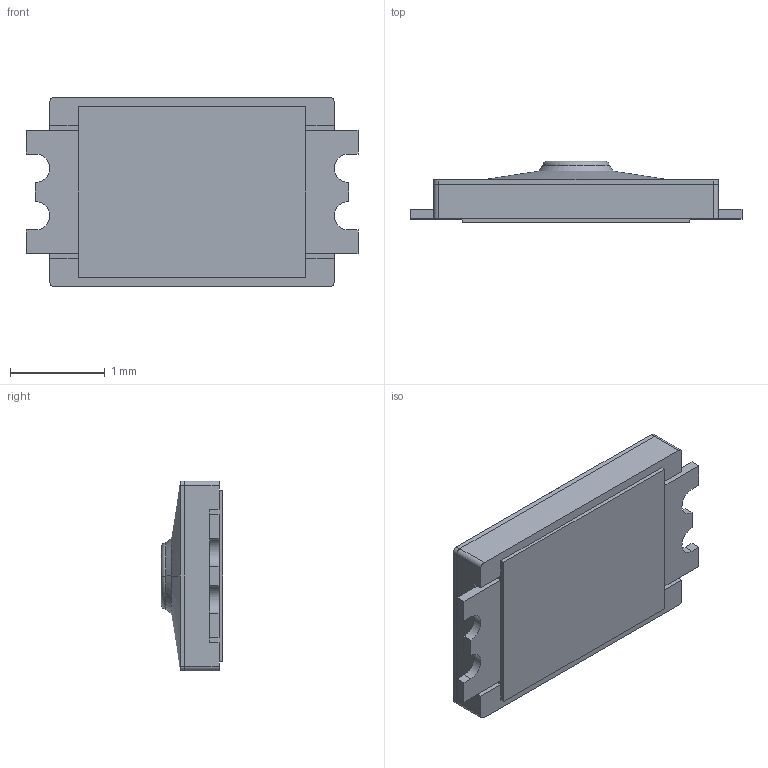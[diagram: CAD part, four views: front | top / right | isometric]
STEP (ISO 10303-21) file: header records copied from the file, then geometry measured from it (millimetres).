
FILE_DESCRIPTION((''),'2;1');
FILE_NAME('JQA2030F-B0061-01FG-1-106_ASM','2026-04-11T11:02:29',('Admin'),(''),'CREO PARAMETRIC BY PTC INC, 2019224','CREO PARAMETRIC BY PTC INC, 2019224','');
FILE_SCHEMA(('AUTOMOTIVE_DESIGN { 1 0 10303 214 1 1 1 1 }'));
Length unit declared in the file: millimetre
Products named in the file (3): JQA2030F-B0061-01FG-1-106_01; JQA2030F-B0061-01FG-1-106_02; JQA2030F-B0061-01FG-1-106_ASM
Assembly tree (2 placements, depth 2):
  JQA2030F-B0061-01FG-1-106_ASM
    JQA2030F-B0061-01FG-1-106_01
    JQA2030F-B0061-01FG-1-106_02
Bounding box: 3.5 x 0.65 x 2 mm (x, y, z)
Volume: 2.9 mm3; surface area: 29.7 mm2
Topology: 2 solids, 2 shells, 68 faces, 178 edges, 114 vertices
Faces by surface type: plane 50, cylinder 12, cone 4, torus 2
Entity records: 3002 total; most frequent: CARTESIAN_POINT 374, DIRECTION 368, ORIENTED_EDGE 356, EDGE_CURVE 178, PRESENTATION_STYLE_ASSIGNMENT 169, STYLED_ITEM 143, CURVE_STYLE 139, VECTOR 138
